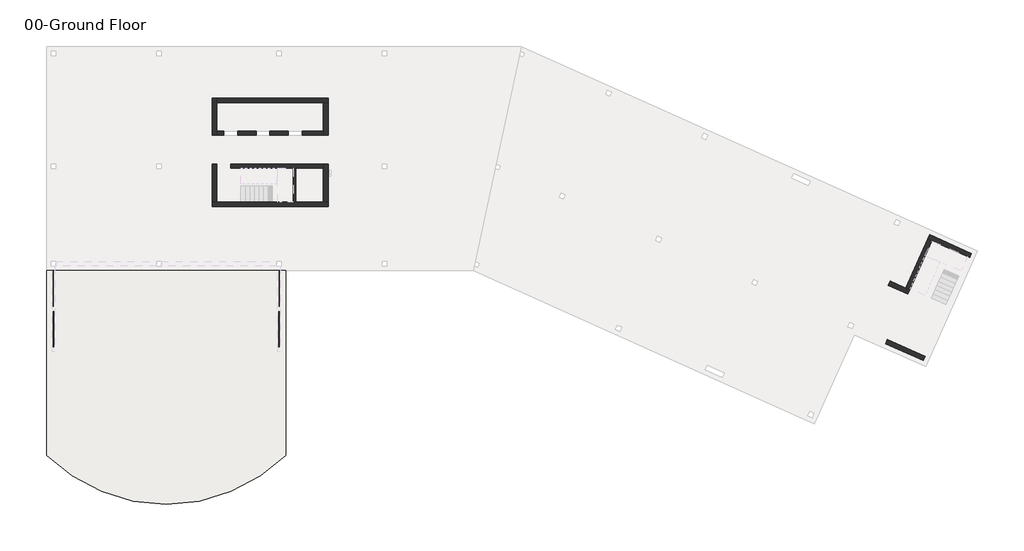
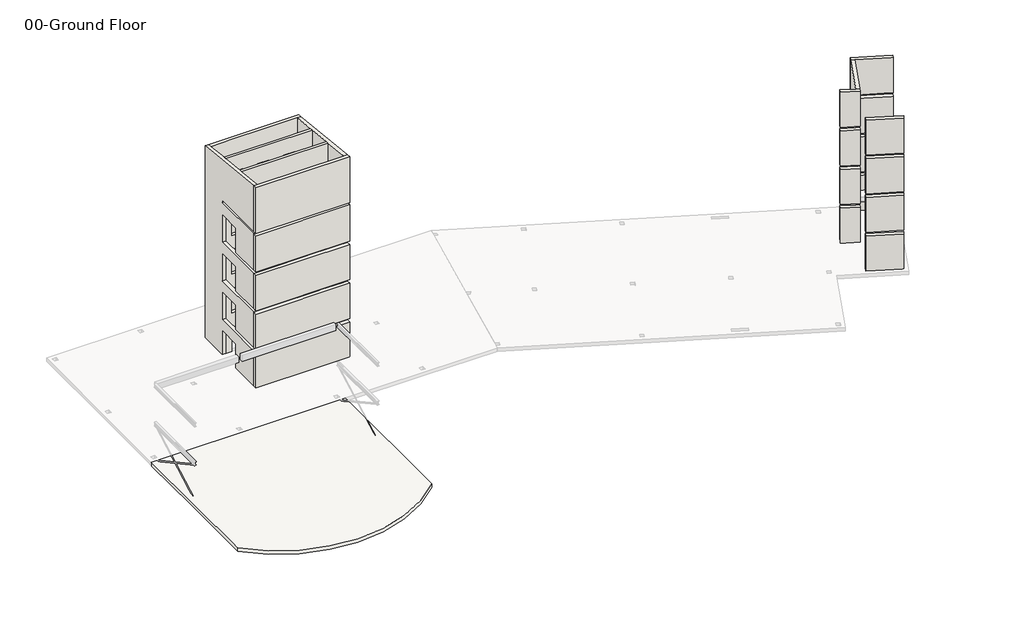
# One storey, part 1 of 2: 11 walls, 1 slab.
"""IFC4 building model written with IfcOpenShell, lengths in millimetres."""

from ifc_helpers import new_model, si_unit, frame, origin, origin_with_axes, place, context, project, spatial, polyline, circle_curve, outline, extrude, faceted_brep, element, save
from ifc_brep_helpers import plane_surface, cylinder_surface, advanced_brep

model = new_model("IFC4")

# Units and contexts
model_context = context("Model", 3, world=origin())
ifc_project = project(units=[si_unit("LENGTHUNIT", "METRE", prefix="MILLI")], contexts=[model_context])

# Site, building, storey
site = spatial("IfcSite", under=ifc_project)
building = spatial("IfcBuilding", under=site)
storey = spatial("IfcBuildingStorey", under=building, Name="00-Ground Floor", Elevation=0.0)

# Slab
placement = place(None, origin())
element("IfcSlab", 1, ObjectType="RC Slab 12\"", at=placement, inside=storey, context=model_context, shape_type="AdvancedBrep", body=[
    advanced_brep(
    [(15455.9, -26723.3402351, -304.8), (-457.2, -26723.3402351, -304.8), (-457.2, -20002.5, -304.8), (-457.2, -14452.6, -304.8), (15455.9, -14452.6, -304.8), (15455.9, -20002.5, -304.8), (15455.9, -26723.3402351, 0.0), (15455.9, -14452.6, 0.0), (-457.2, -14452.6, 0.0), (-457.2, -26723.3402351, 0.0)],
    [
        (0, 1, circle_curve(frame((7499.35, -18686.6508475, -304.8), z_axis=(0.0, 0.0, -1.0), x_axis=(1.0, 0.0, 0.0)), 11309.0699979)),
        (1, 2),
        (2, 3),
        (3, 4),
        (4, 5),
        (5, 0),
        (6, 7),
        (7, 8),
        (8, 9),
        (9, 6, circle_curve(frame((7499.35, -18686.6508475, 0.0), z_axis=(0.0, 0.0, 1.0), x_axis=(1.0, 0.0, 0.0)), 11309.0699979)),
        (1, 9),
        (8, 3),
        (7, 4),
        (6, 0),
    ],
    [
        plane_surface(frame((18808.4199979, -18686.6508475, -304.8), z_axis=(0.0, 0.0, -1.0), x_axis=(0.0, -1.0, 0.0))),
        plane_surface(frame((18808.4199979, -18686.6508475, 0.0), z_axis=(0.0, 0.0, 1.0), x_axis=(0.0, 1.0, 0.0))),
        plane_surface(frame((-457.2, -26723.3402351, -304.8), z_axis=(-1.0, 0.0, 0.0), x_axis=(0.0, 0.0, 1.0))),
        plane_surface(frame((-457.2, -14452.6, -304.8), z_axis=(0.0, 1.0, 0.0), x_axis=(0.0, 0.0, 1.0))),
        plane_surface(frame((15455.9, -14452.6, -304.8), z_axis=(1.0, 0.0, 0.0), x_axis=(0.0, 0.0, 1.0))),
        cylinder_surface(frame((7499.35, -18686.6508475, 0.0), z_axis=(0.0, 0.0, -1.0), x_axis=(1.0, 0.0, 0.0)), 11309.0699979),
    ],
    [
        (0, [[1, 2, 3, 4, 5, 6]]),
        (1, [[7, 8, 9, 10]]),
        (2, [[-3, -2, 11, -9, 12]]),
        (3, [[-4, -12, -8, 13]]),
        (4, [[-6, -5, -13, -7, 14]]),
        (5, [[-1, -14, -10, -11]]),
    ],
),
])

# Walls
element("IfcWall", 2, ObjectType="6\" Blockwork with render", at=placement, inside=storey, context=model_context, shape_type="SweptSolid", body=[
    extrude(outline(polyline([(16103.6, -7632.7), (16103.6, -9893.3), (15951.2, -9893.3), (15951.2, -7632.7), (16103.6, -7632.7)])), origin_with_axes(), (0.0, 0.0, 1.0), 3048.0),
])
element("IfcWall", 3, ObjectType="RC Wall 10\"", at=placement, inside=storey, context=model_context, shape_type="Brep", body=[
    faceted_brep([(17945.1, -5422.9, 16899.0824764), (10858.5, -5422.9, 16899.0824764), (10858.5, -5422.9, 13411.2), (10858.5, -5422.9, 13208.0), (10858.5, -5422.9, 12192.0), (10858.5, -5422.9, 10058.4), (10858.5, -5422.9, 9753.6), (10858.5, -5422.9, 8839.2), (10858.5, -5422.9, 6705.6), (10858.5, -5422.9, 6400.8), (10858.5, -5422.9, 5486.4), (10858.5, -5422.9, 3352.8), (10858.5, -5422.9, 3048.0), (10858.5, -5422.9, 2133.6), (10858.5, -5422.9, 0.0), (11328.4, -5422.9, 0.0), (11328.4, -5422.9, 2133.6), (12242.8, -5422.9, 2133.6), (12242.8, -5422.9, 0.0), (13474.7, -5422.9, 0.0), (13474.7, -5422.9, 2133.6), (14389.1, -5422.9, 2133.6), (14389.1, -5422.9, 0.0), (15608.3, -5422.9, 0.0), (15608.3, -5422.9, 2133.6), (16522.7, -5422.9, 2133.6), (16522.7, -5422.9, 0.0), (17945.1, -5422.9, 0.0), (17945.1, -5422.9, 2133.6), (17945.1, -5422.9, 3048.0), (17005.3, -5422.9, 3048.0), (17005.3, -5422.9, 3352.8), (17945.1, -5422.9, 3352.8), (17945.1, -5422.9, 5486.4), (17945.1, -5422.9, 6400.8), (17005.3, -5422.9, 6400.8), (17005.3, -5422.9, 6705.6), (17945.1, -5422.9, 6705.6), (17945.1, -5422.9, 8839.2), (17945.1, -5422.9, 9753.6), (17005.3, -5422.9, 9753.6), (17005.3, -5422.9, 10058.4), (17945.1, -5422.9, 10058.4), (17945.1, -5422.9, 12192.0), (17945.1, -5422.9, 13208.0), (17005.3, -5422.9, 13208.0), (17005.3, -5422.9, 13411.2), (17945.1, -5422.9, 13411.2), (17945.1, -5422.9, 15544.8), (15608.3, -5422.9, 3352.8), (15608.3, -5422.9, 5486.4), (16522.7, -5422.9, 5486.4), (16522.7, -5422.9, 3352.8), (13474.7, -5422.9, 3352.8), (13474.7, -5422.9, 5486.4), (14389.1, -5422.9, 5486.4), (14389.1, -5422.9, 3352.8), (11328.4, -5422.9, 3352.8), (11328.4, -5422.9, 5486.4), (12242.8, -5422.9, 5486.4), (12242.8, -5422.9, 3352.8), (15608.3, -5422.9, 6705.6), (15608.3, -5422.9, 8839.2), (16522.7, -5422.9, 8839.2), (16522.7, -5422.9, 6705.6), (13474.7, -5422.9, 6705.6), (13474.7, -5422.9, 8839.2), (14389.1, -5422.9, 8839.2), (14389.1, -5422.9, 6705.6), (11328.4, -5422.9, 6705.6), (11328.4, -5422.9, 8839.2), (12242.8, -5422.9, 8839.2), (12242.8, -5422.9, 6705.6), (15608.3, -5422.9, 10058.4), (15608.3, -5422.9, 12192.0), (16522.7, -5422.9, 12192.0), (16522.7, -5422.9, 10058.4), (13474.7, -5422.9, 10058.4), (13474.7, -5422.9, 12192.0), (14389.1, -5422.9, 12192.0), (14389.1, -5422.9, 10058.4), (11328.4, -5422.9, 10058.4), (11328.4, -5422.9, 12192.0), (12242.8, -5422.9, 12192.0), (12242.8, -5422.9, 10058.4), (15608.3, -5422.9, 13411.2), (15608.3, -5422.9, 15544.8), (16522.7, -5422.9, 15544.8), (16522.7, -5422.9, 13411.2), (13474.7, -5422.9, 13411.2), (13474.7, -5422.9, 15544.8), (14389.1, -5422.9, 15544.8), (14389.1, -5422.9, 13411.2), (11328.4, -5422.9, 13411.2), (11328.4, -5422.9, 15544.8), (12242.8, -5422.9, 15544.8), (12242.8, -5422.9, 13411.2), (10858.5, -5168.9, 0.0), (10858.5, -5168.9, 16872.3860006), (12738.1, -5168.9, 16872.3860006), (12992.1, -5168.9, 16872.3860006), (14871.7, -5168.9, 16872.3860006), (15125.7, -5168.9, 16872.3860006), (17945.1, -5168.9, 16872.3860006), (17945.1, -5168.9, 13411.2), (17005.3, -5168.9, 13411.2), (17005.3, -5168.9, 13208.0), (17945.1, -5168.9, 13208.0), (17945.1, -5168.9, 10058.4), (17005.3, -5168.9, 10058.4), (17005.3, -5168.9, 9753.6), (17945.1, -5168.9, 9753.6), (17945.1, -5168.9, 6705.6), (17005.3, -5168.9, 6705.6), (17005.3, -5168.9, 6400.8), (17945.1, -5168.9, 6400.8), (17945.1, -5168.9, 3352.8), (17005.3, -5168.9, 3352.8), (17005.3, -5168.9, 3048.0), (17945.1, -5168.9, 3048.0), (17945.1, -5168.9, 0.0), (16522.7, -5168.9, 0.0), (16522.7, -5168.9, 2133.6), (15608.3, -5168.9, 2133.6), (15608.3, -5168.9, 0.0), (15125.7, -5168.9, 0.0), (14871.7, -5168.9, 0.0), (14389.1, -5168.9, 0.0), (14389.1, -5168.9, 2133.6), (13474.7, -5168.9, 2133.6), (13474.7, -5168.9, 0.0), (12992.1, -5168.9, 0.0), (12738.1, -5168.9, 0.0), (12242.8, -5168.9, 0.0), (12242.8, -5168.9, 2133.6), (11328.4, -5168.9, 2133.6), (11328.4, -5168.9, 0.0), (15608.3, -5168.9, 5486.4), (15608.3, -5168.9, 3352.8), (16522.7, -5168.9, 3352.8), (16522.7, -5168.9, 5486.4), (13474.7, -5168.9, 5486.4), (13474.7, -5168.9, 3352.8), (14389.1, -5168.9, 3352.8), (14389.1, -5168.9, 5486.4), (11328.4, -5168.9, 5486.4), (11328.4, -5168.9, 3352.8), (12242.8, -5168.9, 3352.8), (12242.8, -5168.9, 5486.4), (15608.3, -5168.9, 8839.2), (15608.3, -5168.9, 6705.6), (16522.7, -5168.9, 6705.6), (16522.7, -5168.9, 8839.2), (13474.7, -5168.9, 8839.2), (13474.7, -5168.9, 6705.6), (14389.1, -5168.9, 6705.6), (14389.1, -5168.9, 8839.2), (11328.4, -5168.9, 8839.2), (11328.4, -5168.9, 6705.6), (12242.8, -5168.9, 6705.6), (12242.8, -5168.9, 8839.2), (15608.3, -5168.9, 12192.0), (15608.3, -5168.9, 10058.4), (16522.7, -5168.9, 10058.4), (16522.7, -5168.9, 12192.0), (13474.7, -5168.9, 12192.0), (13474.7, -5168.9, 10058.4), (14389.1, -5168.9, 10058.4), (14389.1, -5168.9, 12192.0), (11328.4, -5168.9, 12192.0), (11328.4, -5168.9, 10058.4), (12242.8, -5168.9, 10058.4), (12242.8, -5168.9, 12192.0), (15608.3, -5168.9, 15544.8), (15608.3, -5168.9, 13411.2), (16522.7, -5168.9, 13411.2), (16522.7, -5168.9, 15544.8), (13474.7, -5168.9, 15544.8), (13474.7, -5168.9, 13411.2), (14389.1, -5168.9, 13411.2), (14389.1, -5168.9, 15544.8), (11328.4, -5168.9, 15544.8), (11328.4, -5168.9, 13411.2), (12242.8, -5168.9, 13411.2), (12242.8, -5168.9, 15544.8)], [[[0, 1, 2, 3, 4, 5, 6, 7, 8, 9, 10, 11, 12, 13, 14, 15, 16, 17, 18, 19, 20, 21, 22, 23, 24, 25, 26, 27, 28, 29, 30, 31, 32, 33, 34, 35, 36, 37, 38, 39, 40, 41, 42, 43, 44, 45, 46, 47, 48], [49, 50, 51, 52], [53, 54, 55, 56], [57, 58, 59, 60], [61, 62, 63, 64], [65, 66, 67, 68], [69, 70, 71, 72], [73, 74, 75, 76], [77, 78, 79, 80], [81, 82, 83, 84], [85, 86, 87, 88], [89, 90, 91, 92], [93, 94, 95, 96]], [[97, 98, 99, 100, 101, 102, 103, 104, 105, 106, 107, 108, 109, 110, 111, 112, 113, 114, 115, 116, 117, 118, 119, 120, 121, 122, 123, 124, 125, 126, 127, 128, 129, 130, 131, 132, 133, 134, 135, 136], [137, 138, 139, 140], [141, 142, 143, 144], [145, 146, 147, 148], [149, 150, 151, 152], [153, 154, 155, 156], [157, 158, 159, 160], [161, 162, 163, 164], [165, 166, 167, 168], [169, 170, 171, 172], [173, 174, 175, 176], [177, 178, 179, 180], [181, 182, 183, 184]], [[14, 97, 136, 15]], [[120, 27, 26, 121]], [[18, 133, 132, 131, 130, 19]], [[22, 127, 126, 125, 124, 23]], [[98, 97, 14, 13, 12, 11, 10, 9, 8, 7, 6, 5, 4, 3, 2, 1]], [[27, 120, 119, 29, 28]], [[103, 0, 48, 47, 104]], [[107, 44, 43, 42, 108]], [[111, 39, 38, 37, 112]], [[115, 34, 33, 32, 116]], [[1, 0, 103, 102, 101, 100, 99, 98]], [[136, 135, 16, 15]], [[134, 133, 18, 17]], [[135, 134, 17, 16]], [[130, 129, 20, 19]], [[128, 127, 22, 21]], [[129, 128, 21, 20]], [[124, 123, 24, 23]], [[122, 121, 26, 25]], [[123, 122, 25, 24]], [[138, 137, 50, 49]], [[139, 138, 49, 52]], [[140, 139, 52, 51]], [[137, 140, 51, 50]], [[142, 141, 54, 53]], [[143, 142, 53, 56]], [[144, 143, 56, 55]], [[141, 144, 55, 54]], [[146, 145, 58, 57]], [[147, 146, 57, 60]], [[148, 147, 60, 59]], [[145, 148, 59, 58]], [[150, 149, 62, 61]], [[151, 150, 61, 64]], [[152, 151, 64, 63]], [[149, 152, 63, 62]], [[154, 153, 66, 65]], [[155, 154, 65, 68]], [[156, 155, 68, 67]], [[153, 156, 67, 66]], [[158, 157, 70, 69]], [[159, 158, 69, 72]], [[160, 159, 72, 71]], [[157, 160, 71, 70]], [[162, 161, 74, 73]], [[163, 162, 73, 76]], [[164, 163, 76, 75]], [[161, 164, 75, 74]], [[166, 165, 78, 77]], [[167, 166, 77, 80]], [[168, 167, 80, 79]], [[165, 168, 79, 78]], [[170, 169, 82, 81]], [[171, 170, 81, 84]], [[172, 171, 84, 83]], [[169, 172, 83, 82]], [[174, 173, 86, 85]], [[175, 174, 85, 88]], [[176, 175, 88, 87]], [[173, 176, 87, 86]], [[178, 177, 90, 89]], [[179, 178, 89, 92]], [[180, 179, 92, 91]], [[177, 180, 91, 90]], [[182, 181, 94, 93]], [[183, 182, 93, 96]], [[184, 183, 96, 95]], [[181, 184, 95, 94]], [[106, 45, 44, 107]], [[46, 105, 104, 47]], [[45, 106, 105, 46]], [[110, 40, 39, 111]], [[41, 109, 108, 42]], [[40, 110, 109, 41]], [[114, 35, 34, 115]], [[36, 113, 112, 37]], [[35, 114, 113, 36]], [[118, 30, 29, 119]], [[31, 117, 116, 32]], [[30, 118, 117, 31]]]),
])
element("IfcWall", 4, ObjectType="RC Wall 10\"", at=placement, inside=storey, context=model_context, shape_type="Brep", body=[
    faceted_brep([(17945.1, -7632.7, 17131.3418155), (10858.5, -7632.7, 17131.3418155), (10858.5, -7632.7, 15544.8), (11772.9, -7632.7, 15544.8), (11772.9, -7632.7, 13411.2), (15951.2, -7632.7, 13411.2), (16103.6, -7632.7, 13411.2), (17945.1, -7632.7, 13411.2), (10858.5, -7378.7, 17104.6453397), (17945.1, -7378.7, 17104.6453397), (17945.1, -7378.7, 15544.8), (17945.1, -7378.7, 13411.2), (11772.9, -7378.7, 13411.2), (11772.9, -7378.7, 15544.8), (10858.5, -7378.7, 15544.8)], [[[0, 1, 2, 3, 4, 5, 6, 7]], [[8, 9, 10, 11, 12, 13, 14]], [[1, 8, 14, 2]], [[9, 0, 7, 11, 10]], [[1, 0, 9, 8]], [[13, 12, 4, 3]], [[14, 13, 3, 2]], [[7, 6, 5, 4, 12, 11]]]),
    faceted_brep([(11772.9, -7632.7, 0.0), (15951.2, -7632.7, 0.0), (16103.6, -7632.7, 0.0), (17945.1, -7632.7, 0.0), (17945.1, -7632.7, 3048.0), (16103.6, -7632.7, 3048.0), (15951.2, -7632.7, 3048.0), (10858.5, -7632.7, 3048.0), (10858.5, -7632.7, 2133.6), (11772.9, -7632.7, 2133.6), (17945.1, -7378.7, 0.0), (11772.9, -7378.7, 0.0), (11772.9, -7378.7, 2133.6), (10858.5, -7378.7, 2133.6), (10858.5, -7378.7, 3048.0), (17945.1, -7378.7, 3048.0), (17945.1, -7378.7, 2133.6)], [[[0, 1, 2, 3, 4, 5, 6, 7, 8, 9]], [[10, 11, 12, 13, 14, 15, 16]], [[10, 3, 2, 1, 0, 11]], [[13, 8, 7, 14]], [[3, 10, 16, 15, 4]], [[9, 12, 11, 0]], [[12, 9, 8, 13]], [[7, 6, 5, 4, 15, 14]]]),
    faceted_brep([(11772.9, -7632.7, 5486.4), (11772.9, -7632.7, 3352.8), (15951.2, -7632.7, 3352.8), (16103.6, -7632.7, 3352.8), (17945.1, -7632.7, 3352.8), (17945.1, -7632.7, 6400.8), (16103.6, -7632.7, 6400.8), (15951.2, -7632.7, 6400.8), (10858.5, -7632.7, 6400.8), (10858.5, -7632.7, 5486.4), (11772.9, -7378.7, 3352.8), (11772.9, -7378.7, 5486.4), (10858.5, -7378.7, 5486.4), (10858.5, -7378.7, 6400.8), (17945.1, -7378.7, 6400.8), (17945.1, -7378.7, 5486.4), (17945.1, -7378.7, 3352.8)], [[[0, 1, 2, 3, 4, 5, 6, 7, 8, 9]], [[10, 11, 12, 13, 14, 15, 16]], [[12, 9, 8, 13]], [[4, 16, 15, 14, 5]], [[11, 10, 1, 0]], [[12, 11, 0, 9]], [[4, 3, 2, 1, 10, 16]], [[8, 7, 6, 5, 14, 13]]]),
    faceted_brep([(11772.9, -7632.7, 8839.2), (11772.9, -7632.7, 6705.6), (15951.2, -7632.7, 6705.6), (16103.6, -7632.7, 6705.6), (17945.1, -7632.7, 6705.6), (17945.1, -7632.7, 9753.6), (16103.6, -7632.7, 9753.6), (15951.2, -7632.7, 9753.6), (10858.5, -7632.7, 9753.6), (10858.5, -7632.7, 8839.2), (11772.9, -7378.7, 6705.6), (11772.9, -7378.7, 8839.2), (10858.5, -7378.7, 8839.2), (10858.5, -7378.7, 9753.6), (17945.1, -7378.7, 9753.6), (17945.1, -7378.7, 8839.2), (17945.1, -7378.7, 6705.6)], [[[0, 1, 2, 3, 4, 5, 6, 7, 8, 9]], [[10, 11, 12, 13, 14, 15, 16]], [[12, 9, 8, 13]], [[4, 16, 15, 14, 5]], [[11, 10, 1, 0]], [[12, 11, 0, 9]], [[4, 3, 2, 1, 10, 16]], [[8, 7, 6, 5, 14, 13]]]),
    faceted_brep([(11772.9, -7632.7, 12192.0), (11772.9, -7632.7, 10058.4), (15951.2, -7632.7, 10058.4), (16103.6, -7632.7, 10058.4), (17945.1, -7632.7, 10058.4), (17945.1, -7632.7, 13208.0), (16103.6, -7632.7, 13208.0), (15951.2, -7632.7, 13208.0), (10858.5, -7632.7, 13208.0), (10858.5, -7632.7, 12192.0), (11772.9, -7378.7, 10058.4), (11772.9, -7378.7, 12192.0), (10858.5, -7378.7, 12192.0), (10858.5, -7378.7, 13208.0), (17945.1, -7378.7, 13208.0), (17945.1, -7378.7, 12192.0), (17945.1, -7378.7, 10058.4)], [[[0, 1, 2, 3, 4, 5, 6, 7, 8, 9]], [[10, 11, 12, 13, 14, 15, 16]], [[12, 9, 8, 13]], [[14, 5, 4, 16, 15]], [[11, 10, 1, 0]], [[12, 11, 0, 9]], [[8, 7, 6, 5, 14, 13]], [[4, 3, 2, 1, 10, 16]]]),
])
element("IfcWall", 5, ObjectType="RC Wall 12\"", at=placement, inside=storey, context=model_context, shape_type="Brep", body=[
    faceted_brep([(18249.9, -9893.3, 0.0), (17945.1, -9893.3, 0.0), (16103.6, -9893.3, 0.0), (15951.2, -9893.3, 0.0), (10858.5, -9893.3, 0.0), (10553.7, -9893.3, 0.0), (10553.7, -9893.3, 3048.0), (10858.5, -9893.3, 3048.0), (12446.0, -9893.3, 3048.0), (15951.2, -9893.3, 3048.0), (16103.6, -9893.3, 3048.0), (17945.1, -9893.3, 3048.0), (18249.9, -9893.3, 3048.0), (10553.7, -10198.1, 0.0), (18249.9, -10198.1, 0.0), (18249.9, -10198.1, 3048.0), (10553.7, -10198.1, 3048.0)], [[[0, 1, 2, 3, 4, 5, 6, 7, 8, 9, 10, 11, 12]], [[13, 14, 15, 16]], [[5, 4, 3, 2, 1, 0, 14, 13]], [[5, 13, 16, 6]], [[14, 0, 12, 15]], [[8, 7, 6, 16, 15, 12, 11, 10, 9]]]),
    faceted_brep([(10553.7, -9893.3, 17368.9404497), (10858.5, -9893.3, 17368.9404497), (17945.1, -9893.3, 17368.9404497), (18249.9, -9893.3, 17368.9404497), (18249.9, -9893.3, 13411.2), (17945.1, -9893.3, 13411.2), (16103.6, -9893.3, 13411.2), (15951.2, -9893.3, 13411.2), (12446.0, -9893.3, 13411.2), (10858.5, -9893.3, 13411.2), (10553.7, -9893.3, 13411.2), (18249.9, -10198.1, 17400.9762206), (10553.7, -10198.1, 17400.9762206), (10553.7, -10198.1, 13411.2), (18249.9, -10198.1, 13411.2)], [[[0, 1, 2, 3, 4, 5, 6, 7, 8, 9, 10]], [[11, 12, 13, 14]], [[12, 0, 10, 13]], [[3, 11, 14, 4]], [[3, 2, 1, 0, 12, 11]], [[10, 9, 8, 7, 6, 5, 4, 14, 13]]]),
    faceted_brep([(10553.7, -9893.3, 13208.0), (10858.5, -9893.3, 13208.0), (12446.0, -9893.3, 13208.0), (15951.2, -9893.3, 13208.0), (16103.6, -9893.3, 13208.0), (17945.1, -9893.3, 13208.0), (18249.9, -9893.3, 13208.0), (18249.9, -9893.3, 10058.4), (17945.1, -9893.3, 10058.4), (16103.6, -9893.3, 10058.4), (15951.2, -9893.3, 10058.4), (12446.0, -9893.3, 10058.4), (10858.5, -9893.3, 10058.4), (10553.7, -9893.3, 10058.4), (18249.9, -10198.1, 13208.0), (10553.7, -10198.1, 13208.0), (10553.7, -10198.1, 10058.4), (18249.9, -10198.1, 10058.4)], [[[0, 1, 2, 3, 4, 5, 6, 7, 8, 9, 10, 11, 12, 13]], [[14, 15, 16, 17]], [[15, 0, 13, 16]], [[6, 14, 17, 7]], [[2, 1, 0, 15, 14, 6, 5, 4, 3]], [[13, 12, 11, 10, 9, 8, 7, 17, 16]]]),
    faceted_brep([(10553.7, -9893.3, 9753.6), (10858.5, -9893.3, 9753.6), (12446.0, -9893.3, 9753.6), (15951.2, -9893.3, 9753.6), (16103.6, -9893.3, 9753.6), (17945.1, -9893.3, 9753.6), (18249.9, -9893.3, 9753.6), (18249.9, -9893.3, 6705.6), (17945.1, -9893.3, 6705.6), (16103.6, -9893.3, 6705.6), (15951.2, -9893.3, 6705.6), (12446.0, -9893.3, 6705.6), (10858.5, -9893.3, 6705.6), (10553.7, -9893.3, 6705.6), (18249.9, -10198.1, 9753.6), (10553.7, -10198.1, 9753.6), (10553.7, -10198.1, 6705.6), (18249.9, -10198.1, 6705.6)], [[[0, 1, 2, 3, 4, 5, 6, 7, 8, 9, 10, 11, 12, 13]], [[14, 15, 16, 17]], [[15, 0, 13, 16]], [[6, 14, 17, 7]], [[2, 1, 0, 15, 14, 6, 5, 4, 3]], [[13, 12, 11, 10, 9, 8, 7, 17, 16]]]),
    faceted_brep([(10553.7, -9893.3, 6400.8), (10858.5, -9893.3, 6400.8), (12446.0, -9893.3, 6400.8), (15951.2, -9893.3, 6400.8), (16103.6, -9893.3, 6400.8), (17945.1, -9893.3, 6400.8), (18249.9, -9893.3, 6400.8), (18249.9, -9893.3, 3352.8), (17945.1, -9893.3, 3352.8), (16103.6, -9893.3, 3352.8), (15951.2, -9893.3, 3352.8), (12446.0, -9893.3, 3352.8), (10858.5, -9893.3, 3352.8), (10553.7, -9893.3, 3352.8), (18249.9, -10198.1, 6400.8), (10553.7, -10198.1, 6400.8), (10553.7, -10198.1, 3352.8), (18249.9, -10198.1, 3352.8)], [[[0, 1, 2, 3, 4, 5, 6, 7, 8, 9, 10, 11, 12, 13]], [[14, 15, 16, 17]], [[15, 0, 13, 16]], [[6, 14, 17, 7]], [[2, 1, 0, 15, 14, 6, 5, 4, 3]], [[13, 12, 11, 10, 9, 8, 7, 17, 16]]]),
])
element("IfcWall", 6, ObjectType="RC Wall 12\"", at=placement, inside=storey, context=model_context, shape_type="Brep", body=[
    faceted_brep([(10858.5, -2984.5, 16642.7963091), (10858.5, -3289.3, 16674.83208), (10858.5, -5168.9, 16872.3860006), (10858.5, -5422.9, 16899.0824764), (10858.5, -7378.7, 17104.6453397), (10858.5, -7632.7, 17131.3418155), (10858.5, -9893.3, 17368.9404497), (10858.5, -9893.3, 13411.2), (10858.5, -5422.9, 13411.2), (10858.5, -5422.9, 13208.0), (10858.5, -7378.7, 13208.0), (10858.5, -7632.7, 13208.0), (10858.5, -9893.3, 13208.0), (10858.5, -9893.3, 10058.4), (10858.5, -7378.7, 10058.4), (10858.5, -7378.7, 12192.0), (10858.5, -5422.9, 12192.0), (10858.5, -5422.9, 9753.6), (10858.5, -7378.7, 9753.6), (10858.5, -7632.7, 9753.6), (10858.5, -9893.3, 9753.6), (10858.5, -9893.3, 6705.6), (10858.5, -7378.7, 6705.6), (10858.5, -7378.7, 8839.2), (10858.5, -5422.9, 8839.2), (10858.5, -5422.9, 6400.8), (10858.5, -7378.7, 6400.8), (10858.5, -7632.7, 6400.8), (10858.5, -9893.3, 6400.8), (10858.5, -9893.3, 3352.8), (10858.5, -7378.7, 3352.8), (10858.5, -7378.7, 5486.4), (10858.5, -5422.9, 5486.4), (10858.5, -5422.9, 3048.0), (10858.5, -7378.7, 3048.0), (10858.5, -7632.7, 3048.0), (10858.5, -9893.3, 3048.0), (10858.5, -9893.3, 0.0), (10858.5, -7378.7, 0.0), (10858.5, -7378.7, 2133.6), (10858.5, -5422.9, 2133.6), (10858.5, -5422.9, 0.0), (10858.5, -5168.9, 0.0), (10858.5, -3289.3, 0.0), (10858.5, -2984.5, 0.0), (10858.5, -2984.5, 3048.0), (10858.5, -2984.5, 3352.8), (10858.5, -2984.5, 6400.8), (10858.5, -2984.5, 6705.6), (10858.5, -2984.5, 9753.6), (10858.5, -2984.5, 10058.4), (10553.7, -9893.3, 17368.9404497), (10553.7, -2984.5, 16642.7963091), (10553.7, -2984.5, 10058.4), (10553.7, -2984.5, 9753.6), (10553.7, -2984.5, 6705.6), (10553.7, -2984.5, 6400.8), (10553.7, -2984.5, 3352.8), (10553.7, -2984.5, 3048.0), (10553.7, -2984.5, 0.0), (10553.7, -5422.9, 0.0), (10553.7, -5422.9, 2133.6), (10553.7, -7378.7, 2133.6), (10553.7, -7378.7, 0.0), (10553.7, -9893.3, 0.0), (10553.7, -9893.3, 3048.0), (10553.7, -5422.9, 3048.0), (10553.7, -5422.9, 3352.8), (10553.7, -5422.9, 5486.4), (10553.7, -7378.7, 5486.4), (10553.7, -7378.7, 3352.8), (10553.7, -9893.3, 3352.8), (10553.7, -9893.3, 6400.8), (10553.7, -5422.9, 6400.8), (10553.7, -5422.9, 6705.6), (10553.7, -5422.9, 8839.2), (10553.7, -7378.7, 8839.2), (10553.7, -7378.7, 6705.6), (10553.7, -9893.3, 6705.6), (10553.7, -9893.3, 9753.6), (10553.7, -5422.9, 9753.6), (10553.7, -5422.9, 10058.4), (10553.7, -5422.9, 12192.0), (10553.7, -7378.7, 12192.0), (10553.7, -7378.7, 10058.4), (10553.7, -9893.3, 10058.4), (10553.7, -9893.3, 13208.0), (10553.7, -5422.9, 13208.0), (10553.7, -5422.9, 13411.2), (10553.7, -9893.3, 13411.2)], [[[0, 1, 2, 3, 4, 5, 6, 7, 8, 9, 10, 11, 12, 13, 14, 15, 16, 17, 18, 19, 20, 21, 22, 23, 24, 25, 26, 27, 28, 29, 30, 31, 32, 33, 34, 35, 36, 37, 38, 39, 40, 41, 42, 43, 44, 45, 46, 47, 48, 49, 50]], [[51, 52, 53, 54, 55, 56, 57, 58, 59, 60, 61, 62, 63, 64, 65, 66, 67, 68, 69, 70, 71, 72, 73, 74, 75, 76, 77, 78, 79, 80, 81, 82, 83, 84, 85, 86, 87, 88, 89]], [[37, 64, 63, 38]], [[59, 44, 43, 42, 41, 60]], [[64, 37, 36, 65]], [[6, 51, 89, 7]], [[12, 86, 85, 13]], [[20, 79, 78, 21]], [[28, 72, 71, 29]], [[44, 59, 58, 57, 56, 55, 54, 53, 52, 0, 50, 49, 48, 47, 46, 45]], [[6, 5, 4, 3, 2, 1, 0, 52, 51]], [[41, 40, 61, 60]], [[39, 38, 63, 62]], [[40, 39, 62, 61]], [[32, 68, 67, 66, 33]], [[31, 30, 70, 69]], [[32, 31, 69, 68]], [[24, 75, 74, 73, 25]], [[23, 22, 77, 76]], [[24, 23, 76, 75]], [[16, 82, 81, 80, 17]], [[15, 14, 84, 83]], [[16, 15, 83, 82]], [[9, 87, 86, 12, 11, 10]], [[88, 8, 7, 89]], [[87, 9, 8, 88]], [[17, 80, 79, 20, 19, 18]], [[14, 13, 85, 84]], [[25, 73, 72, 28, 27, 26]], [[22, 21, 78, 77]], [[33, 66, 65, 36, 35, 34]], [[30, 29, 71, 70]]]),
])
element("IfcWall", 7, ObjectType="RC Wall 12\"", at=placement, inside=storey, context=model_context, shape_type="Brep", body=[
    faceted_brep([(10858.5, -3289.3, 0.0), (12738.1, -3289.3, 0.0), (12992.1, -3289.3, 0.0), (14871.7, -3289.3, 0.0), (15125.7, -3289.3, 0.0), (17945.1, -3289.3, 0.0), (18249.9, -3289.3, 0.0), (18249.9, -3289.3, 3048.0), (17945.1, -3289.3, 3048.0), (17005.3, -3289.3, 3048.0), (17005.3, -3289.3, 3352.8), (17945.1, -3289.3, 3352.8), (18249.9, -3289.3, 3352.8), (18249.9, -3289.3, 6400.8), (17945.1, -3289.3, 6400.8), (17005.3, -3289.3, 6400.8), (17005.3, -3289.3, 6705.6), (17945.1, -3289.3, 6705.6), (18249.9, -3289.3, 6705.6), (18249.9, -3289.3, 9753.6), (17945.1, -3289.3, 9753.6), (17005.3, -3289.3, 9753.6), (17005.3, -3289.3, 10058.4), (17945.1, -3289.3, 10058.4), (18249.9, -3289.3, 10058.4), (18249.9, -3289.3, 13208.0), (17945.1, -3289.3, 13208.0), (17005.3, -3289.3, 13208.0), (17005.3, -3289.3, 13411.2), (17945.1, -3289.3, 13411.2), (18249.9, -3289.3, 13411.2), (18249.9, -3289.3, 16674.83208), (17945.1, -3289.3, 16674.83208), (15125.7, -3289.3, 16674.83208), (14871.7, -3289.3, 16674.83208), (12992.1, -3289.3, 16674.83208), (12738.1, -3289.3, 16674.83208), (10858.5, -3289.3, 16674.83208), (18249.9, -2984.5, 0.0), (10858.5, -2984.5, 0.0), (10858.5, -2984.5, 3048.0), (10858.5, -2984.5, 3352.8), (10858.5, -2984.5, 6400.8), (10858.5, -2984.5, 6705.6), (10858.5, -2984.5, 9753.6), (10858.5, -2984.5, 10058.4), (10858.5, -2984.5, 16642.7963091), (18249.9, -2984.5, 16642.7963091), (18249.9, -2984.5, 13411.2), (17005.3, -2984.5, 13411.2), (17005.3, -2984.5, 13208.0), (18249.9, -2984.5, 13208.0), (18249.9, -2984.5, 10058.4), (17005.3, -2984.5, 10058.4), (17005.3, -2984.5, 9753.6), (18249.9, -2984.5, 9753.6), (18249.9, -2984.5, 6705.6), (17005.3, -2984.5, 6705.6), (17005.3, -2984.5, 6400.8), (18249.9, -2984.5, 6400.8), (18249.9, -2984.5, 3352.8), (17005.3, -2984.5, 3352.8), (17005.3, -2984.5, 3048.0), (18249.9, -2984.5, 3048.0)], [[[0, 1, 2, 3, 4, 5, 6, 7, 8, 9, 10, 11, 12, 13, 14, 15, 16, 17, 18, 19, 20, 21, 22, 23, 24, 25, 26, 27, 28, 29, 30, 31, 32, 33, 34, 35, 36, 37]], [[38, 39, 40, 41, 42, 43, 44, 45, 46, 47, 48, 49, 50, 51, 52, 53, 54, 55, 56, 57, 58, 59, 60, 61, 62, 63]], [[6, 5, 4, 3, 2, 1, 0, 39, 38]], [[0, 37, 46, 45, 44, 43, 42, 41, 40, 39]], [[47, 31, 30, 48]], [[51, 25, 24, 52]], [[55, 19, 18, 56]], [[59, 13, 12, 60]], [[6, 38, 63, 7]], [[37, 36, 35, 34, 33, 32, 31, 47, 46]], [[50, 27, 26, 25, 51]], [[28, 49, 48, 30, 29]], [[27, 50, 49, 28]], [[54, 21, 20, 19, 55]], [[22, 53, 52, 24, 23]], [[21, 54, 53, 22]], [[58, 15, 14, 13, 59]], [[16, 57, 56, 18, 17]], [[15, 58, 57, 16]], [[62, 9, 8, 7, 63]], [[10, 61, 60, 12, 11]], [[9, 62, 61, 10]]]),
])
element("IfcWall", 8, ObjectType="RC Wall 12\"", at=placement, inside=storey, context=model_context, shape_type="Brep", body=[
    faceted_brep([(17945.1, -9893.3, 17368.9404497), (17945.1, -7632.7, 17131.3418155), (17945.1, -7378.7, 17104.6453397), (17945.1, -5422.9, 16899.0824764), (17945.1, -5168.9, 16872.3860006), (17945.1, -3289.3, 16674.83208), (17945.1, -3289.3, 13411.2), (17945.1, -5168.9, 13411.2), (17945.1, -5422.9, 13411.2), (17945.1, -5422.9, 15544.8), (17945.1, -7378.7, 15544.8), (17945.1, -7378.7, 13411.2), (17945.1, -7632.7, 13411.2), (17945.1, -9893.3, 13411.2), (18249.9, -3289.3, 16674.83208), (18249.9, -9893.3, 17368.9404497), (18249.9, -9893.3, 13411.2), (18249.9, -7378.7, 13411.2), (18249.9, -7378.7, 15544.8), (18249.9, -5422.9, 15544.8), (18249.9, -5422.9, 13411.2), (18249.9, -3289.3, 13411.2)], [[[0, 1, 2, 3, 4, 5, 6, 7, 8, 9, 10, 11, 12, 13]], [[14, 15, 16, 17, 18, 19, 20, 21]], [[15, 0, 13, 16]], [[5, 14, 21, 6]], [[5, 4, 3, 2, 1, 0, 15, 14]], [[21, 20, 8, 7, 6]], [[13, 12, 11, 17, 16]], [[20, 19, 9, 8]], [[18, 17, 11, 10]], [[19, 18, 10, 9]]]),
    faceted_brep([(17945.1, -5422.9, 0.0), (17945.1, -5422.9, 2133.6), (17945.1, -7378.7, 2133.6), (17945.1, -7378.7, 0.0), (17945.1, -7632.7, 0.0), (17945.1, -9893.3, 0.0), (17945.1, -9893.3, 3048.0), (17945.1, -7632.7, 3048.0), (17945.1, -7378.7, 3048.0), (17945.1, -5422.9, 3048.0), (17945.1, -5168.9, 3048.0), (17945.1, -3289.3, 3048.0), (17945.1, -3289.3, 0.0), (17945.1, -5168.9, 0.0), (18249.9, -5422.9, 2133.6), (18249.9, -5422.9, 0.0), (18249.9, -3289.3, 0.0), (18249.9, -3289.3, 3048.0), (18249.9, -9893.3, 3048.0), (18249.9, -9893.3, 0.0), (18249.9, -7378.7, 0.0), (18249.9, -7378.7, 2133.6)], [[[0, 1, 2, 3, 4, 5, 6, 7, 8, 9, 10, 11, 12, 13]], [[14, 15, 16, 17, 18, 19, 20, 21]], [[12, 16, 15, 0, 13]], [[19, 5, 4, 3, 20]], [[5, 19, 18, 6]], [[16, 12, 11, 17]], [[15, 14, 1, 0]], [[21, 20, 3, 2]], [[14, 21, 2, 1]], [[11, 10, 9, 8, 7, 6, 18, 17]]]),
    faceted_brep([(17945.1, -5422.9, 3352.8), (17945.1, -5422.9, 5486.4), (17945.1, -7378.7, 5486.4), (17945.1, -7378.7, 3352.8), (17945.1, -7632.7, 3352.8), (17945.1, -9893.3, 3352.8), (17945.1, -9893.3, 6400.8), (17945.1, -7632.7, 6400.8), (17945.1, -7378.7, 6400.8), (17945.1, -5422.9, 6400.8), (17945.1, -5168.9, 6400.8), (17945.1, -3289.3, 6400.8), (17945.1, -3289.3, 3352.8), (17945.1, -5168.9, 3352.8), (18249.9, -5422.9, 5486.4), (18249.9, -5422.9, 3352.8), (18249.9, -3289.3, 3352.8), (18249.9, -3289.3, 6400.8), (18249.9, -9893.3, 6400.8), (18249.9, -9893.3, 3352.8), (18249.9, -7378.7, 3352.8), (18249.9, -7378.7, 5486.4)], [[[0, 1, 2, 3, 4, 5, 6, 7, 8, 9, 10, 11, 12, 13]], [[14, 15, 16, 17, 18, 19, 20, 21]], [[18, 6, 5, 19]], [[11, 17, 16, 12]], [[15, 14, 1, 0]], [[21, 20, 3, 2]], [[14, 21, 2, 1]], [[11, 10, 9, 8, 7, 6, 18, 17]], [[0, 13, 12, 16, 15]], [[5, 4, 3, 20, 19]]]),
    faceted_brep([(17945.1, -5422.9, 6705.6), (17945.1, -5422.9, 8839.2), (17945.1, -7378.7, 8839.2), (17945.1, -7378.7, 6705.6), (17945.1, -7632.7, 6705.6), (17945.1, -9893.3, 6705.6), (17945.1, -9893.3, 9753.6), (17945.1, -7632.7, 9753.6), (17945.1, -7378.7, 9753.6), (17945.1, -5422.9, 9753.6), (17945.1, -5168.9, 9753.6), (17945.1, -3289.3, 9753.6), (17945.1, -3289.3, 6705.6), (17945.1, -5168.9, 6705.6), (18249.9, -5422.9, 8839.2), (18249.9, -5422.9, 6705.6), (18249.9, -3289.3, 6705.6), (18249.9, -3289.3, 9753.6), (18249.9, -9893.3, 9753.6), (18249.9, -9893.3, 6705.6), (18249.9, -7378.7, 6705.6), (18249.9, -7378.7, 8839.2)], [[[0, 1, 2, 3, 4, 5, 6, 7, 8, 9, 10, 11, 12, 13]], [[14, 15, 16, 17, 18, 19, 20, 21]], [[18, 6, 5, 19]], [[11, 17, 16, 12]], [[15, 14, 1, 0]], [[21, 20, 3, 2]], [[14, 21, 2, 1]], [[11, 10, 9, 8, 7, 6, 18, 17]], [[0, 13, 12, 16, 15]], [[5, 4, 3, 20, 19]]]),
    faceted_brep([(17945.1, -5422.9, 10058.4), (17945.1, -5422.9, 12192.0), (17945.1, -7378.7, 12192.0), (17945.1, -7378.7, 10058.4), (17945.1, -7632.7, 10058.4), (17945.1, -9893.3, 10058.4), (17945.1, -9893.3, 13208.0), (17945.1, -7632.7, 13208.0), (17945.1, -7378.7, 13208.0), (17945.1, -5422.9, 13208.0), (17945.1, -5168.9, 13208.0), (17945.1, -3289.3, 13208.0), (17945.1, -3289.3, 10058.4), (17945.1, -5168.9, 10058.4), (18249.9, -5422.9, 12192.0), (18249.9, -5422.9, 10058.4), (18249.9, -3289.3, 10058.4), (18249.9, -3289.3, 13208.0), (18249.9, -9893.3, 13208.0), (18249.9, -9893.3, 10058.4), (18249.9, -7378.7, 10058.4), (18249.9, -7378.7, 12192.0)], [[[0, 1, 2, 3, 4, 5, 6, 7, 8, 9, 10, 11, 12, 13]], [[14, 15, 16, 17, 18, 19, 20, 21]], [[18, 6, 5, 19]], [[11, 17, 16, 12]], [[15, 14, 1, 0]], [[21, 20, 3, 2]], [[14, 21, 2, 1]], [[11, 10, 9, 8, 7, 6, 18, 17]], [[0, 13, 12, 16, 15]], [[5, 4, 3, 20, 19]]]),
])
element("IfcWall", 9, ObjectType="RC Wall 12\"", at=placement, inside=storey, context=model_context, shape_type="Brep", body=[
    faceted_brep([(55480.1253608, -15435.8210954, 0.0), (56785.8662551, -16022.3571121, 0.0), (56785.8662551, -16022.3571121, 3048.0), (55480.1253608, -15435.8210954, 3048.0), (56910.7599136, -15744.3200389, 0.0), (56632.7228404, -15619.4263804, 0.0), (55605.0190193, -15157.7840222, 0.0), (55605.0190193, -15157.7840222, 3048.0), (56632.7228404, -15619.4263804, 3048.0), (56910.7599136, -15744.3200389, 3048.0)], [[[0, 1, 2, 3]], [[4, 5, 6, 7, 8, 9]], [[1, 0, 6, 5, 4]], [[6, 0, 3, 7]], [[1, 4, 9, 2]], [[3, 2, 9, 8, 7]]]),
    faceted_brep([(56785.8662551, -16022.3571121, 13106.4), (55480.1253608, -15435.8210954, 13106.4), (55480.1253608, -15435.8210954, 10058.4), (56785.8662551, -16022.3571121, 10058.4), (55605.0190193, -15157.7840222, 13106.4), (56632.7228404, -15619.4263804, 13106.4), (56910.7599136, -15744.3200389, 13106.4), (56910.7599136, -15744.3200389, 10058.4), (56632.7228404, -15619.4263804, 10058.4), (55605.0190193, -15157.7840222, 10058.4)], [[[0, 1, 2, 3]], [[4, 5, 6, 7, 8, 9]], [[1, 4, 9, 2]], [[6, 0, 3, 7]], [[1, 0, 6, 5, 4]], [[3, 2, 9, 8, 7]]]),
    faceted_brep([(56785.8662551, -16022.3571121, 9753.6), (55480.1253608, -15435.8210954, 9753.6), (55480.1253608, -15435.8210954, 6705.6), (56785.8662551, -16022.3571121, 6705.6), (55605.0190193, -15157.7840222, 9753.6), (56632.7228404, -15619.4263804, 9753.6), (56910.7599136, -15744.3200389, 9753.6), (56910.7599136, -15744.3200389, 6705.6), (56632.7228404, -15619.4263804, 6705.6), (55605.0190193, -15157.7840222, 6705.6)], [[[0, 1, 2, 3]], [[4, 5, 6, 7, 8, 9]], [[1, 4, 9, 2]], [[6, 0, 3, 7]], [[1, 0, 6, 5, 4]], [[3, 2, 9, 8, 7]]]),
    faceted_brep([(56785.8662551, -16022.3571121, 6400.8), (55480.1253608, -15435.8210954, 6400.8), (55480.1253608, -15435.8210954, 3352.8), (56785.8662551, -16022.3571121, 3352.8), (55605.0190193, -15157.7840222, 6400.8), (56632.7228404, -15619.4263804, 6400.8), (56910.7599136, -15744.3200389, 6400.8), (56910.7599136, -15744.3200389, 3352.8), (56632.7228404, -15619.4263804, 3352.8), (55605.0190193, -15157.7840222, 3352.8)], [[[0, 1, 2, 3]], [[4, 5, 6, 7, 8, 9]], [[1, 4, 9, 2]], [[6, 0, 3, 7]], [[1, 0, 6, 5, 4]], [[3, 2, 9, 8, 7]]]),
])
element("IfcWall", 10, ObjectType="RC Wall 12\"", at=placement, inside=storey, context=model_context, shape_type="Brep", body=[
    faceted_brep([(56910.7599136, -15744.3200389, 0.0), (58382.896579, -12467.0634146, 0.0), (58382.896579, -12467.0634146, 3048.0), (56946.6195059, -15664.4897561, 3048.0), (56910.7599136, -15744.3200389, 3048.0), (58104.8595059, -12342.1697561, 0.0), (56632.7228404, -15619.4263804, 0.0), (56632.7228404, -15619.4263804, 3048.0), (58104.8595059, -12342.1697561, 3048.0)], [[[0, 1, 2, 3, 4]], [[5, 6, 7, 8]], [[1, 0, 6, 5]], [[6, 0, 4, 7]], [[3, 2, 8, 7, 4]], [[1, 5, 8, 2]]]),
    faceted_brep([(56946.6195059, -15664.4897561, 6705.6), (58382.896579, -12467.0634146, 6705.6), (58382.896579, -12467.0634146, 9753.6), (56946.6195059, -15664.4897561, 9753.6), (56910.7599136, -15744.3200389, 9753.6), (56910.7599136, -15744.3200389, 6705.6), (58104.8595059, -12342.1697561, 6705.6), (56632.7228404, -15619.4263804, 6705.6), (56632.7228404, -15619.4263804, 9753.6), (58104.8595059, -12342.1697561, 9753.6)], [[[0, 1, 2, 3, 4, 5]], [[6, 7, 8, 9]], [[7, 5, 4, 8]], [[1, 0, 5, 7, 6]], [[1, 6, 9, 2]], [[4, 3, 2, 9, 8]]]),
    faceted_brep([(58382.896579, -12467.0634146, 6400.8), (56946.6195059, -15664.4897561, 6400.8), (56910.7599136, -15744.3200389, 6400.8), (56910.7599136, -15744.3200389, 3352.8), (56946.6195059, -15664.4897561, 3352.8), (58382.896579, -12467.0634146, 3352.8), (56632.7228404, -15619.4263804, 6400.8), (58104.8595059, -12342.1697561, 6400.8), (58104.8595059, -12342.1697561, 3352.8), (56632.7228404, -15619.4263804, 3352.8)], [[[0, 1, 2, 3, 4, 5]], [[6, 7, 8, 9]], [[2, 6, 9, 3]], [[1, 0, 7, 6, 2]], [[5, 4, 3, 9, 8]], [[7, 0, 5, 8]]]),
    faceted_brep([(58382.896579, -12467.0634146, 13106.4), (56946.6195059, -15664.4897561, 13106.4), (56910.7599136, -15744.3200389, 13106.4), (56910.7599136, -15744.3200389, 10058.4), (56946.6195059, -15664.4897561, 10058.4), (58382.896579, -12467.0634146, 10058.4), (56632.7228404, -15619.4263804, 13106.4), (58104.8595059, -12342.1697561, 13106.4), (58104.8595059, -12342.1697561, 10058.4), (56632.7228404, -15619.4263804, 10058.4)], [[[0, 1, 2, 3, 4, 5]], [[6, 7, 8, 9]], [[2, 6, 9, 3]], [[1, 0, 7, 6, 2]], [[7, 0, 5, 8]], [[4, 3, 9, 8, 5]]]),
])
element("IfcWall", 11, ObjectType="RC Wall 12\"", at=placement, inside=storey, context=model_context, shape_type="SweptSolid", body=[
    extrude(outline(polyline([(57809.7238961, -20437.7692683), (55307.3902376, -19313.7263415), (55432.2838961, -19035.6892683), (57934.6175546, -20159.7321951), (57809.7238961, -20437.7692683)])), origin_with_axes(), (0.0, 0.0, 1.0), 3048.0),
    extrude(outline(polyline([(57809.7238961, -20437.7692683), (55307.3902376, -19313.7263415), (55432.2838961, -19035.6892683), (57934.6175546, -20159.7321951), (57809.7238961, -20437.7692683)])), frame((0.0, 0.0, 10058.4), z_axis=(0.0, 0.0, 1.0), x_axis=(1.0, 0.0, 0.0)), (0.0, 0.0, 1.0), 3048.0),
    extrude(outline(polyline([(57809.7238961, -20437.7692683), (55307.3902376, -19313.7263415), (55432.2838961, -19035.6892683), (57934.6175546, -20159.7321951), (57809.7238961, -20437.7692683)])), frame((0.0, 0.0, 6705.6), z_axis=(0.0, 0.0, 1.0), x_axis=(1.0, 0.0, 0.0)), (0.0, 0.0, 1.0), 3048.0),
    extrude(outline(polyline([(57809.7238961, -20437.7692683), (55307.3902376, -19313.7263415), (55432.2838961, -19035.6892683), (57934.6175546, -20159.7321951), (57809.7238961, -20437.7692683)])), frame((0.0, 0.0, 3352.8), z_axis=(0.0, 0.0, 1.0), x_axis=(1.0, 0.0, 0.0)), (0.0, 0.0, 1.0), 3048.0),
])
element("IfcWall", 12, ObjectType="RC Wall 12\"", at=placement, inside=storey, context=model_context, shape_type="Brep", body=[
    faceted_brep([(58104.8595059, -12342.1697561, 0.0), (58382.896579, -12467.0634146, 0.0), (60885.2302376, -13591.1063415, 0.0), (60885.2302376, -13591.1063415, 3048.0), (60746.211701, -13528.6595122, 3048.0), (58382.896579, -12467.0634146, 3048.0), (58104.8595059, -12342.1697561, 3048.0), (61010.1238961, -13313.0692683, 0.0), (58229.7531644, -12064.1326829, 0.0), (58229.7531644, -12064.1326829, 3048.0), (61010.1238961, -13313.0692683, 3048.0)], [[[0, 1, 2, 3, 4, 5, 6]], [[7, 8, 9, 10]], [[2, 1, 0, 8, 7]], [[2, 7, 10, 3]], [[8, 0, 6, 9]], [[4, 3, 10, 9, 6, 5]]]),
    faceted_brep([(60885.2302376, -13591.1063415, 9753.6), (60746.211701, -13528.6595122, 9753.6), (58382.896579, -12467.0634146, 9753.6), (58104.8595059, -12342.1697561, 9753.6), (58104.8595059, -12342.1697561, 6705.6), (58382.896579, -12467.0634146, 6705.6), (60746.211701, -13528.6595122, 6705.6), (60885.2302376, -13591.1063415, 6705.6), (58229.7531644, -12064.1326829, 9753.6), (61010.1238961, -13313.0692683, 9753.6), (61010.1238961, -13313.0692683, 6705.6), (58229.7531644, -12064.1326829, 6705.6)], [[[0, 1, 2, 3, 4, 5, 6, 7]], [[8, 9, 10, 11]], [[9, 0, 7, 10]], [[3, 8, 11, 4]], [[1, 0, 9, 8, 3, 2]], [[7, 6, 5, 4, 11, 10]]]),
    faceted_brep([(60746.211701, -13528.6595122, 10058.4), (60885.2302376, -13591.1063415, 10058.4), (60885.2302376, -13591.1063415, 13106.4), (60746.211701, -13528.6595122, 13106.4), (58382.896579, -12467.0634146, 13106.4), (58104.8595059, -12342.1697561, 13106.4), (58104.8595059, -12342.1697561, 10058.4), (58382.896579, -12467.0634146, 10058.4), (61010.1238961, -13313.0692683, 10058.4), (58229.7531644, -12064.1326829, 10058.4), (58229.7531644, -12064.1326829, 13106.4), (61010.1238961, -13313.0692683, 13106.4)], [[[0, 1, 2, 3, 4, 5, 6, 7]], [[8, 9, 10, 11]], [[1, 8, 11, 2]], [[9, 6, 5, 10]], [[1, 0, 7, 6, 9, 8]], [[5, 4, 3, 2, 11, 10]]]),
    faceted_brep([(60885.2302376, -13591.1063415, 6400.8), (60746.211701, -13528.6595122, 6400.8), (58382.896579, -12467.0634146, 6400.8), (58104.8595059, -12342.1697561, 6400.8), (58104.8595059, -12342.1697561, 3352.8), (58382.896579, -12467.0634146, 3352.8), (60746.211701, -13528.6595122, 3352.8), (60885.2302376, -13591.1063415, 3352.8), (58229.7531644, -12064.1326829, 6400.8), (61010.1238961, -13313.0692683, 6400.8), (61010.1238961, -13313.0692683, 3352.8), (58229.7531644, -12064.1326829, 3352.8)], [[[0, 1, 2, 3, 4, 5, 6, 7]], [[8, 9, 10, 11]], [[9, 0, 7, 10]], [[3, 8, 11, 4]], [[1, 0, 9, 8, 3, 2]], [[7, 6, 5, 4, 11, 10]]]),
])

save(model, "model.ifc")
